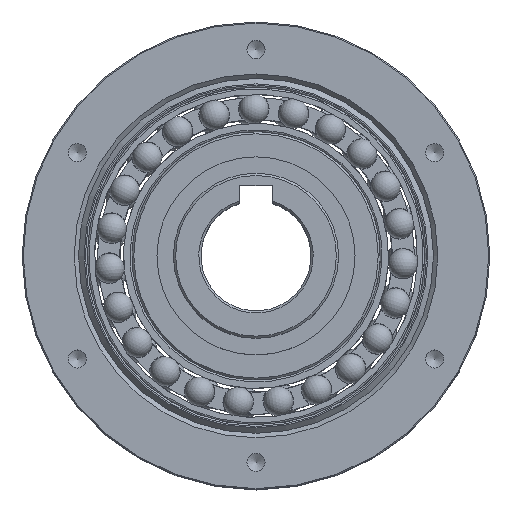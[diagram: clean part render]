
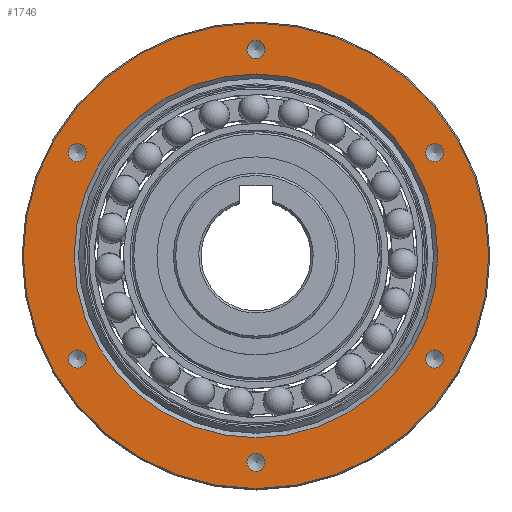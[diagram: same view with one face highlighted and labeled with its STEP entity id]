
A CAD part, top view. The second image highlights one B-rep face of the part: STEP entity #1746.
In plain terms, the highlighted planar face has unit normal (0, 0, 1).
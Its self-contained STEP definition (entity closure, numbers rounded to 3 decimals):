
#134 = DIRECTION ( 'NONE',  ( -1., 0., 0. ) ) ;
#203 = CIRCLE ( 'NONE', #4422, 33.05 ) ;
#306 = EDGE_CURVE ( 'NONE', #4467, #4467, #4934, .T. ) ;
#453 = EDGE_CURVE ( 'NONE', #4459, #4459, #3144, .T. ) ;
#554 = CARTESIAN_POINT ( 'NONE',  ( 34.126, 18.75, 14.5 ) ) ;
#633 = AXIS2_PLACEMENT_3D ( 'NONE', #5106, #796, #5804 ) ;
#645 = AXIS2_PLACEMENT_3D ( 'NONE', #5643, #7921, #8013 ) ;
#796 = DIRECTION ( 'NONE',  ( 0., 0., 1. ) ) ;
#998 = DIRECTION ( 'NONE',  ( 0., 0., 1. ) ) ;
#1160 = DIRECTION ( 'NONE',  ( 0., 0., -1. ) ) ;
#1261 = CARTESIAN_POINT ( 'NONE',  ( -30.826, 18.75, 14.5 ) ) ;
#1375 = AXIS2_PLACEMENT_3D ( 'NONE', #7426, #3200, #8157 ) ;
#1523 = ORIENTED_EDGE ( 'NONE', *, *, #4327, .T. ) ;
#1746 = ADVANCED_FACE ( 'NONE', ( #5460, #5366, #5477, #5375, #5715, #5357, #5348, #5260 ), #6581, .F. ) ;
#1808 = DIRECTION ( 'NONE',  ( 0., 0., 1. ) ) ;
#1809 = EDGE_LOOP ( 'NONE', ( #4754 ) ) ;
#1843 = ORIENTED_EDGE ( 'NONE', *, *, #7245, .F. ) ;
#2212 = VERTEX_POINT ( 'NONE', #7955 ) ;
#2214 = VERTEX_POINT ( 'NONE', #2999 ) ;
#2273 = ORIENTED_EDGE ( 'NONE', *, *, #3771, .F. ) ;
#2309 = VERTEX_POINT ( 'NONE', #7224 ) ;
#2437 = VERTEX_POINT ( 'NONE', #5014 ) ;
#2828 = CARTESIAN_POINT ( 'NONE',  ( -33.05, 0., 14.5 ) ) ;
#2999 = CARTESIAN_POINT ( 'NONE',  ( 34.126, -18.75, 14.5 ) ) ;
#3002 = VERTEX_POINT ( 'NONE', #2828 ) ;
#3144 = CIRCLE ( 'NONE', #9234, 1.65 ) ;
#3200 = DIRECTION ( 'NONE',  ( 0., 0., 1. ) ) ;
#3331 = VERTEX_POINT ( 'NONE', #9164 ) ;
#3433 = ORIENTED_EDGE ( 'NONE', *, *, #6485, .F. ) ;
#3489 = AXIS2_PLACEMENT_3D ( 'NONE', #8684, #4468, #134 ) ;
#3763 = EDGE_LOOP ( 'NONE', ( #4062 ) ) ;
#3771 = EDGE_CURVE ( 'NONE', #3331, #3331, #5076, .T. ) ;
#3982 = EDGE_LOOP ( 'NONE', ( #1523 ) ) ;
#4062 = ORIENTED_EDGE ( 'NONE', *, *, #7119, .T. ) ;
#4123 = CIRCLE ( 'NONE', #1375, 1.65 ) ;
#4145 = CIRCLE ( 'NONE', #633, 1.65 ) ;
#4327 = EDGE_CURVE ( 'NONE', #3002, #3002, #203, .T. ) ;
#4378 = AXIS2_PLACEMENT_3D ( 'NONE', #6501, #4458, #6641 ) ;
#4422 = AXIS2_PLACEMENT_3D ( 'NONE', #5461, #1160, #6170 ) ;
#4458 = DIRECTION ( 'NONE',  ( 0., 0., -1. ) ) ;
#4459 = VERTEX_POINT ( 'NONE', #1261 ) ;
#4467 = VERTEX_POINT ( 'NONE', #554 ) ;
#4468 = DIRECTION ( 'NONE',  ( 0., 0., 1. ) ) ;
#4475 = AXIS2_PLACEMENT_3D ( 'NONE', #6086, #1808, #6772 ) ;
#4599 = EDGE_LOOP ( 'NONE', ( #1843 ) ) ;
#4754 = ORIENTED_EDGE ( 'NONE', *, *, #7286, .F. ) ;
#4815 = CIRCLE ( 'NONE', #8695, 1.65 ) ;
#4876 = EDGE_LOOP ( 'NONE', ( #2273 ) ) ;
#4934 = CIRCLE ( 'NONE', #645, 1.65 ) ;
#5014 = CARTESIAN_POINT ( 'NONE',  ( -30.826, -18.75, 14.5 ) ) ;
#5076 = CIRCLE ( 'NONE', #4475, 1.65 ) ;
#5106 = CARTESIAN_POINT ( 'NONE',  ( -32.476, -18.75, 14.5 ) ) ;
#5176 = EDGE_LOOP ( 'NONE', ( #3433 ) ) ;
#5260 = FACE_OUTER_BOUND ( 'NONE', #3763, .T. ) ;
#5300 = ORIENTED_EDGE ( 'NONE', *, *, #306, .F. ) ;
#5302 = CARTESIAN_POINT ( 'NONE',  ( 32.476, -18.75, 14.5 ) ) ;
#5348 = FACE_BOUND ( 'NONE', #3982, .T. ) ;
#5357 = FACE_BOUND ( 'NONE', #1809, .T. ) ;
#5366 = FACE_BOUND ( 'NONE', #5176, .T. ) ;
#5375 = FACE_BOUND ( 'NONE', #4599, .T. ) ;
#5460 = FACE_BOUND ( 'NONE', #6171, .T. ) ;
#5461 = CARTESIAN_POINT ( 'NONE',  ( 0., 0., 14.5 ) ) ;
#5477 = FACE_BOUND ( 'NONE', #4876, .T. ) ;
#5643 = CARTESIAN_POINT ( 'NONE',  ( 32.476, 18.75, 14.5 ) ) ;
#5715 = FACE_BOUND ( 'NONE', #9183, .T. ) ;
#5804 = DIRECTION ( 'NONE',  ( 1., 0., 0. ) ) ;
#5994 = DIRECTION ( 'NONE',  ( 1., 0., 0. ) ) ;
#6086 = CARTESIAN_POINT ( 'NONE',  ( 0., -37.5, 14.5 ) ) ;
#6170 = DIRECTION ( 'NONE',  ( -1., 0., 0. ) ) ;
#6171 = EDGE_LOOP ( 'NONE', ( #8849 ) ) ;
#6233 = CIRCLE ( 'NONE', #3489, 42.3 ) ;
#6485 = EDGE_CURVE ( 'NONE', #2437, #2437, #4145, .T. ) ;
#6501 = CARTESIAN_POINT ( 'NONE',  ( 0., 42.5, 14.5 ) ) ;
#6581 = PLANE ( 'NONE',  #4378 ) ;
#6641 = DIRECTION ( 'NONE',  ( -1., 0., 0. ) ) ;
#6772 = DIRECTION ( 'NONE',  ( 1., 0., 0. ) ) ;
#6922 = DIRECTION ( 'NONE',  ( 1., 0., 0. ) ) ;
#6977 = DIRECTION ( 'NONE',  ( 0., 0., 1. ) ) ;
#7098 = CARTESIAN_POINT ( 'NONE',  ( -32.476, 18.75, 14.5 ) ) ;
#7119 = EDGE_CURVE ( 'NONE', #2309, #2309, #6233, .T. ) ;
#7224 = CARTESIAN_POINT ( 'NONE',  ( -42.3, 0., 14.5 ) ) ;
#7245 = EDGE_CURVE ( 'NONE', #2214, #2214, #4815, .T. ) ;
#7286 = EDGE_CURVE ( 'NONE', #2212, #2212, #4123, .T. ) ;
#7426 = CARTESIAN_POINT ( 'NONE',  ( 0., 37.5, 14.5 ) ) ;
#7921 = DIRECTION ( 'NONE',  ( 0., 0., 1. ) ) ;
#7955 = CARTESIAN_POINT ( 'NONE',  ( 1.65, 37.5, 14.5 ) ) ;
#8013 = DIRECTION ( 'NONE',  ( 1., 0., 0. ) ) ;
#8157 = DIRECTION ( 'NONE',  ( 1., 0., 0. ) ) ;
#8684 = CARTESIAN_POINT ( 'NONE',  ( 0., 0., 14.5 ) ) ;
#8695 = AXIS2_PLACEMENT_3D ( 'NONE', #5302, #998, #5994 ) ;
#8849 = ORIENTED_EDGE ( 'NONE', *, *, #453, .F. ) ;
#9164 = CARTESIAN_POINT ( 'NONE',  ( 1.65, -37.5, 14.5 ) ) ;
#9183 = EDGE_LOOP ( 'NONE', ( #5300 ) ) ;
#9234 = AXIS2_PLACEMENT_3D ( 'NONE', #7098, #6977, #6922 ) ;
